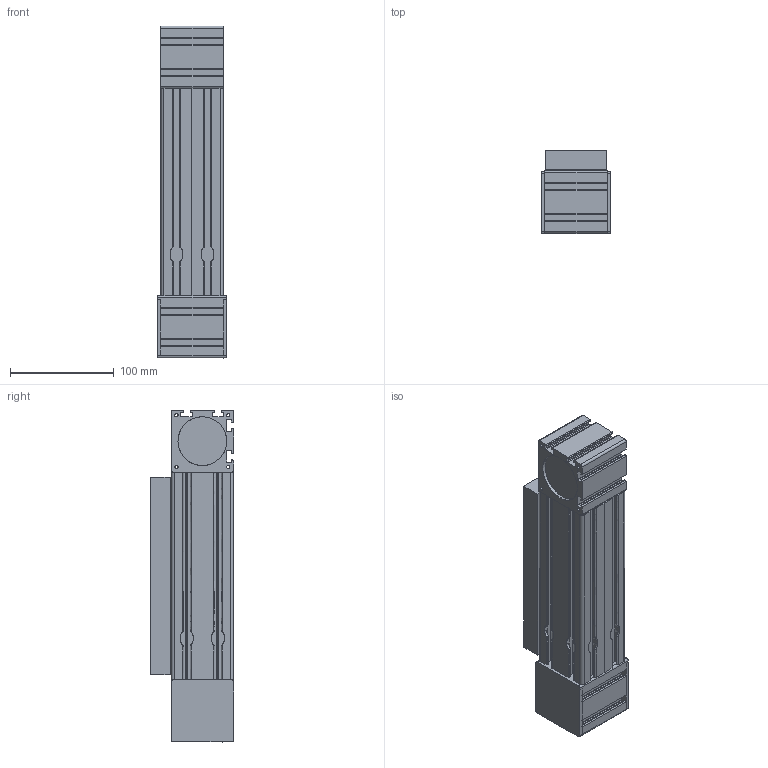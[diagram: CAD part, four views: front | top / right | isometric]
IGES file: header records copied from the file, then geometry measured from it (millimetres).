
Start section: SolidWorks IGES file using analytic representation for surfaces
Global section: file name: C:\Users\disegnatore3\Downloads\AW - motion-line-hpc-cad\ML60HPCL-12-.IGS; native system: SolidWorks 2019; preprocessor: SolidWorks 2019; author: disegnatore3; date: 230323.092541; units: millimetre
Bounding box: 66 x 80 x 320 mm (x, y, z)
Surface area: 173445.5 mm2 (no closed solid volume)
Topology: 0 solids, 0 shells, 513 faces, 5416 edges, 5400 vertices
Faces by surface type: revolution 302, bspline 211
